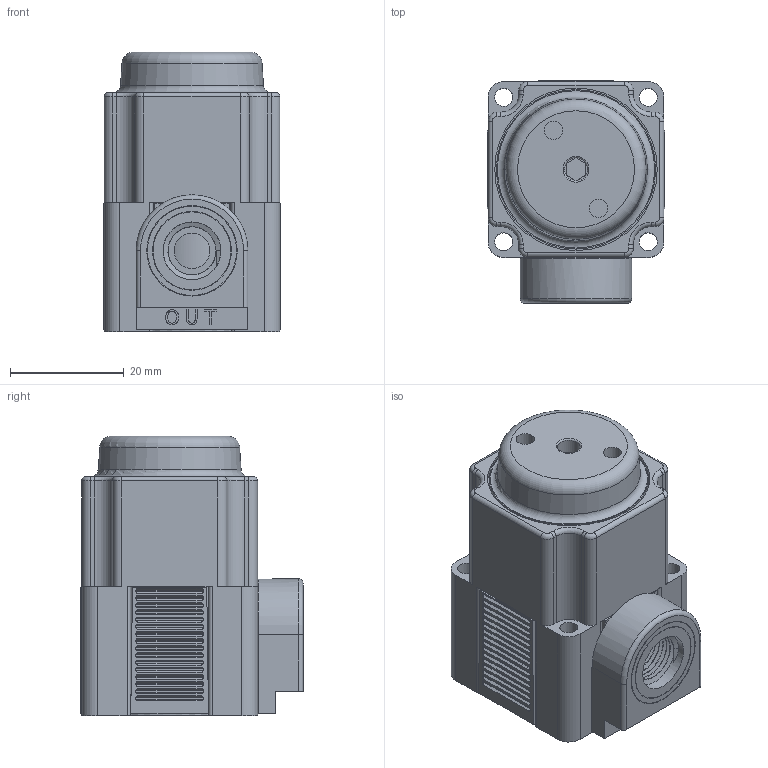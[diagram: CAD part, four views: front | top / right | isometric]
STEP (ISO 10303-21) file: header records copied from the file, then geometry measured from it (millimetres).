
FILE_DESCRIPTION(/* description */ (''),/* implementation_level */ '2;1');
FILE_NAME(/* name */ 'K:\Normteile INVENTOR\Air-Logic\Regulators\PR7000\PR 7___ 1 1''8-27 NPT Threads Out.igs.ipt.stp',/* time_stamp */ '2020-05-27T10:53:51+02:00',/* author */ ('Paul'),/* organization */ (''),/* preprocessor_version */ 'ST-DEVELOPER v18',/* originating_system */ 'Autodesk Inventor 2020',/* authorisation */ '');
FILE_SCHEMA (('AUTOMOTIVE_DESIGN { 1 0 10303 214 3 1 1 }'));
Length unit declared in the file: inch
Products named in the file (1): PR 7___ 1 1'8-27 NPT Threads Out.igs
Bounding box: 31.19 x 39.06 x 49.15 mm (x, y, z)
Volume: 41521.9 mm3; surface area: 13682.3 mm2
Topology: 1 solids, 1 shells, 649 faces, 1692 edges, 1107 vertices
Faces by surface type: plane 320, cylinder 267, bspline 40, torus 20, cone 2
Full cylindrical faces by diameter (mm): 3.175 x4, 3.226 x2, 4.013 x1, 6.248 x1, 8.458 x7, 9.169 x1, 9.652 x1, 10.163 x7, 12.903 x1, 13.716 x1, 13.872 x1, 15.707 x1, 15.913 x1, 26.264 x1, 27.991 x1, 28.047 x1, 28.575 x1
Entity records: 25036 total; most frequent: CARTESIAN_POINT 8088, DIRECTION 3485, ORIENTED_EDGE 3384, EDGE_CURVE 1692, AXIS2_PLACEMENT_3D 1362, VERTEX_POINT 1107, LINE 761, VECTOR 761
